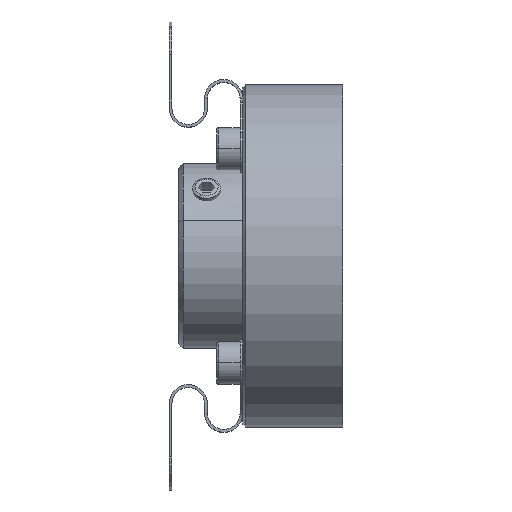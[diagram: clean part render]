
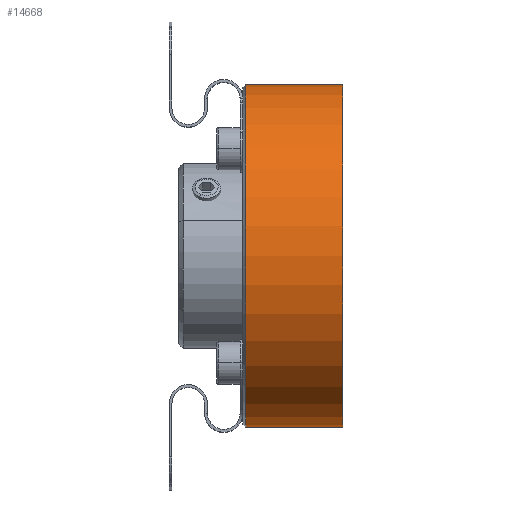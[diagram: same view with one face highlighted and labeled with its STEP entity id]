
A CAD part, top view. The second image highlights one B-rep face of the part: STEP entity #14668.
In plain terms, the highlighted cylindrical face has radius 18.25 mm (diameter 36.5 mm), a partial arc.
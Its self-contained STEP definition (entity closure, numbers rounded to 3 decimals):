
#88 = LINE ( 'NONE', #512, #14682 ) ;
#130 = ORIENTED_EDGE ( 'NONE', *, *, #8203, .T. ) ;
#313 = VERTEX_POINT ( 'NONE', #7496 ) ;
#512 = CARTESIAN_POINT ( 'NONE',  ( -1000., -18.25, 0. ) ) ;
#1250 = AXIS2_PLACEMENT_3D ( 'NONE', #14810, #13366, #12304 ) ;
#2951 = CARTESIAN_POINT ( 'NONE',  ( -11.65, 0., 0. ) ) ;
#3213 = AXIS2_PLACEMENT_3D ( 'NONE', #2951, #10267, #5838 ) ;
#3831 = CARTESIAN_POINT ( 'NONE',  ( -1000., 18.25, 0. ) ) ;
#4124 = VERTEX_POINT ( 'NONE', #16350 ) ;
#4997 = VERTEX_POINT ( 'NONE', #6619 ) ;
#5297 = VERTEX_POINT ( 'NONE', #11973 ) ;
#5309 = EDGE_LOOP ( 'NONE', ( #8674, #6334, #17886, #130 ) ) ;
#5838 = DIRECTION ( 'NONE',  ( 0., 1., 0. ) ) ;
#6334 = ORIENTED_EDGE ( 'NONE', *, *, #11567, .T. ) ;
#6619 = CARTESIAN_POINT ( 'NONE',  ( -11.65, 18.25, 0. ) ) ;
#6985 = VECTOR ( 'NONE', #12476, 1000. ) ;
#7496 = CARTESIAN_POINT ( 'NONE',  ( -11.65, -18.25, 0. ) ) ;
#7711 = CYLINDRICAL_SURFACE ( 'NONE', #1250, 18.25 ) ;
#8024 = AXIS2_PLACEMENT_3D ( 'NONE', #9170, #9277, #17925 ) ;
#8040 = CIRCLE ( 'NONE', #3213, 18.25 ) ;
#8203 = EDGE_CURVE ( 'NONE', #4997, #313, #8040, .T. ) ;
#8674 = ORIENTED_EDGE ( 'NONE', *, *, #9665, .F. ) ;
#9170 = CARTESIAN_POINT ( 'NONE',  ( -1.3, 0., 0. ) ) ;
#9277 = DIRECTION ( 'NONE',  ( -1., 0., 0. ) ) ;
#9665 = EDGE_CURVE ( 'NONE', #4124, #313, #88, .T. ) ;
#10267 = DIRECTION ( 'NONE',  ( 1., 0., 0. ) ) ;
#10556 = CIRCLE ( 'NONE', #8024, 18.25 ) ;
#10773 = LINE ( 'NONE', #3831, #6985 ) ;
#11567 = EDGE_CURVE ( 'NONE', #4124, #5297, #10556, .T. ) ;
#11973 = CARTESIAN_POINT ( 'NONE',  ( -1.3, 18.25, 0. ) ) ;
#12304 = DIRECTION ( 'NONE',  ( 0., 1., 0. ) ) ;
#12476 = DIRECTION ( 'NONE',  ( -1., 0., 0. ) ) ;
#12997 = EDGE_CURVE ( 'NONE', #5297, #4997, #10773, .T. ) ;
#13366 = DIRECTION ( 'NONE',  ( -1., 0., 0. ) ) ;
#14668 = ADVANCED_FACE ( 'NONE', ( #14875 ), #7711, .T. ) ;
#14682 = VECTOR ( 'NONE', #17769, 1000. ) ;
#14810 = CARTESIAN_POINT ( 'NONE',  ( -1000., 0., 0. ) ) ;
#14875 = FACE_OUTER_BOUND ( 'NONE', #5309, .T. ) ;
#16350 = CARTESIAN_POINT ( 'NONE',  ( -1.3, -18.25, 0. ) ) ;
#17769 = DIRECTION ( 'NONE',  ( -1., 0., 0. ) ) ;
#17886 = ORIENTED_EDGE ( 'NONE', *, *, #12997, .T. ) ;
#17925 = DIRECTION ( 'NONE',  ( 0., 1., 0. ) ) ;
